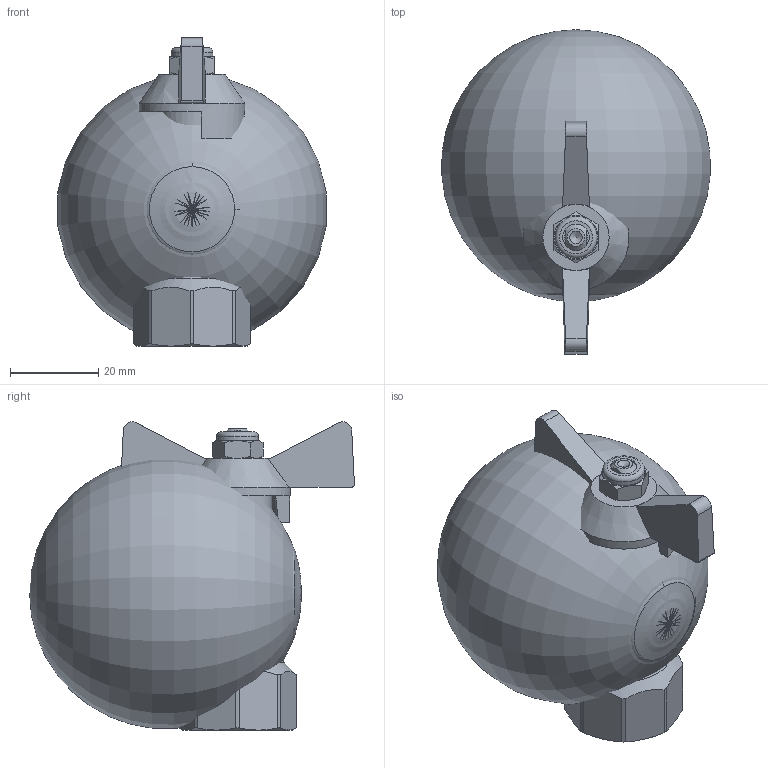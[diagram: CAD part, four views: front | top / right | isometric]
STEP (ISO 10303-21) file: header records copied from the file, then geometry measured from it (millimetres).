
FILE_DESCRIPTION(('STEP AP203'), '1');
FILE_NAME('VT.266.N.0404', '', ('UNSPECIFIED'), ('UNSPECIFIED'), 'C3D Converter', 'C3D Toolkit', '');
FILE_SCHEMA(('CONFIG_CONTROL_DESIGN'));
Length unit declared in the file: millimetre
Products named in the file (1): ВР.491816.030.000 СБ
Bounding box: 60.83 x 73.57 x 69.83 mm (x, y, z)
Surface area: 25769.3 mm2
Topology: 5 solids, 6 shells, 794 faces, 2134 edges, 1375 vertices
Faces by surface type: plane 308, extrusion 284, cylinder 94, cone 57, bspline 25, torus 22, sphere 4
Full cylindrical faces by diameter (mm): 6 x1, 9.5 x1, 10.5 x1, 12 x1, 13 x1, 14.4 x1, 15.5 x1, 16.5 x1, 18.6 x1, 18.632 x3, 18.8 x1, 20 x1, 20.7 x1, 24 x1, 25 x1, 27.3 x1
Entity records: 35384 total; most frequent: CARTESIAN_POINT 17610, ORIENTED_EDGE 4136, DIRECTION 2728, EDGE_CURVE 2069, VERTEX_POINT 1372, VECTOR 1062, B_SPLINE_CURVE_WITH_KNOTS 1053, EDGE_LOOP 886
